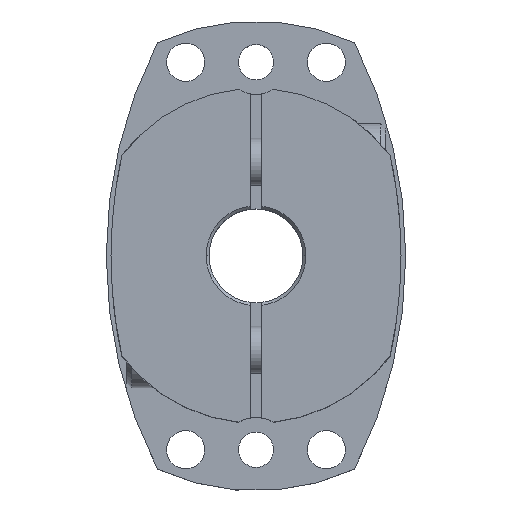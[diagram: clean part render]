
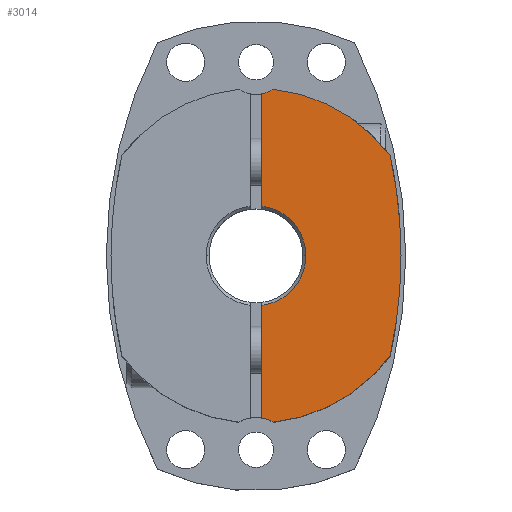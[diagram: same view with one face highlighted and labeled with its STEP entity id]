
A CAD part, top view. The second image highlights one B-rep face of the part: STEP entity #3014.
In plain terms, the highlighted planar face has unit normal (0, 0, 1).
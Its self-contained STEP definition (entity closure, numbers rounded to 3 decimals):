
#373=CARTESIAN_POINT('',(8.5,0.,25.5));
#374=VERTEX_POINT('',#373);
#381=CARTESIAN_POINT('',(1.,8.441,25.5));
#382=VERTEX_POINT('',#381);
#383=CARTESIAN_POINT('',(0.,0.,25.5));
#384=DIRECTION('',(0.0,0.0,1.0));
#385=DIRECTION('',(-1.0,0.0,0.0));
#386=AXIS2_PLACEMENT_3D('',#383,#384,#385);
#387=CIRCLE('',#386,8.5);
#388=EDGE_CURVE('',#374,#382,#387,.T.);
#537=CARTESIAN_POINT('',(24.7,0.,25.5));
#538=VERTEX_POINT('',#537);
#658=CARTESIAN_POINT('',(22.845,17.039,25.5));
#659=VERTEX_POINT('',#658);
#666=CARTESIAN_POINT('',(-54.5,0.,25.5));
#667=DIRECTION('',(0.0,0.0,-1.0));
#668=DIRECTION('',(1.0,0.0,0.0));
#669=AXIS2_PLACEMENT_3D('',#666,#667,#668);
#670=CIRCLE('',#669,79.2);
#671=EDGE_CURVE('',#659,#538,#670,.T.);
#2331=CARTESIAN_POINT('',(2.935,28.348,25.5));
#2332=VERTEX_POINT('',#2331);
#2339=CARTESIAN_POINT('',(0.,0.,25.5));
#2340=DIRECTION('',(0.0,0.0,-1.0));
#2341=DIRECTION('',(1.0,0.0,0.0));
#2342=AXIS2_PLACEMENT_3D('',#2339,#2340,#2341);
#2343=CIRCLE('',#2342,28.5);
#2344=EDGE_CURVE('',#2332,#659,#2343,.T.);
#2555=CARTESIAN_POINT('',(22.845,-17.039,25.5));
#2556=VERTEX_POINT('',#2555);
#2557=CARTESIAN_POINT('',(-54.5,0.,25.5));
#2558=DIRECTION('',(0.0,0.0,-1.0));
#2559=DIRECTION('',(1.0,0.0,0.0));
#2560=AXIS2_PLACEMENT_3D('',#2557,#2558,#2559);
#2561=CIRCLE('',#2560,79.2);
#2562=EDGE_CURVE('',#538,#2556,#2561,.T.);
#2679=CARTESIAN_POINT('',(1.,-27.592,25.5));
#2680=VERTEX_POINT('',#2679);
#2696=CARTESIAN_POINT('',(2.935,-28.348,25.5));
#2697=VERTEX_POINT('',#2696);
#2704=CARTESIAN_POINT('',(0.,-33.,25.5));
#2705=DIRECTION('',(0.0,0.0,-1.0));
#2706=DIRECTION('',(1.0,0.0,0.0));
#2707=AXIS2_PLACEMENT_3D('',#2704,#2705,#2706);
#2708=CIRCLE('',#2707,5.5);
#2709=EDGE_CURVE('',#2680,#2697,#2708,.T.);
#2888=CARTESIAN_POINT('',(1.,27.592,25.5));
#2889=VERTEX_POINT('',#2888);
#2896=CARTESIAN_POINT('',(0.,33.,25.5));
#2897=DIRECTION('',(0.0,0.0,-1.0));
#2898=DIRECTION('',(1.0,0.0,0.0));
#2899=AXIS2_PLACEMENT_3D('',#2896,#2897,#2898);
#2900=CIRCLE('',#2899,5.5);
#2901=EDGE_CURVE('',#2332,#2889,#2900,.T.);
#2936=CARTESIAN_POINT('',(1.,-8.441,25.5));
#2937=VERTEX_POINT('',#2936);
#2938=CARTESIAN_POINT('',(1.,-8.441,25.5));
#2939=DIRECTION('',(0.0,-1.0,0.0));
#2940=VECTOR('',#2939,19.151);
#2941=LINE('',#2938,#2940);
#2942=EDGE_CURVE('',#2937,#2680,#2941,.T.);
#2980=CARTESIAN_POINT('',(0.,0.,25.5));
#2981=DIRECTION('',(0.0,0.0,1.0));
#2982=DIRECTION('',(1.0,0.0,0.0));
#2983=AXIS2_PLACEMENT_3D('',#2980,#2981,#2982);
#2984=PLANE('',#2983);
#2985=ORIENTED_EDGE('',*,*,#2709,.T.);
#2986=CARTESIAN_POINT('',(0.,0.,25.5));
#2987=DIRECTION('',(0.0,0.0,-1.0));
#2988=DIRECTION('',(1.0,0.0,0.0));
#2989=AXIS2_PLACEMENT_3D('',#2986,#2987,#2988);
#2990=CIRCLE('',#2989,28.5);
#2991=EDGE_CURVE('',#2556,#2697,#2990,.T.);
#2992=ORIENTED_EDGE('',*,*,#2991,.F.);
#2993=ORIENTED_EDGE('',*,*,#2562,.F.);
#2994=ORIENTED_EDGE('',*,*,#671,.F.);
#2995=ORIENTED_EDGE('',*,*,#2344,.F.);
#2996=ORIENTED_EDGE('',*,*,#2901,.T.);
#2997=CARTESIAN_POINT('',(1.,27.592,25.5));
#2998=DIRECTION('',(0.0,-1.0,0.0));
#2999=VECTOR('',#2998,19.151);
#3000=LINE('',#2997,#2999);
#3001=EDGE_CURVE('',#2889,#382,#3000,.T.);
#3002=ORIENTED_EDGE('',*,*,#3001,.T.);
#3003=ORIENTED_EDGE('',*,*,#388,.F.);
#3004=CARTESIAN_POINT('',(0.,0.,25.5));
#3005=DIRECTION('',(0.0,0.0,1.0));
#3006=DIRECTION('',(-1.0,0.0,0.0));
#3007=AXIS2_PLACEMENT_3D('',#3004,#3005,#3006);
#3008=CIRCLE('',#3007,8.5);
#3009=EDGE_CURVE('',#2937,#374,#3008,.T.);
#3010=ORIENTED_EDGE('',*,*,#3009,.F.);
#3011=ORIENTED_EDGE('',*,*,#2942,.T.);
#3012=EDGE_LOOP('',(#2985,#2992,#2993,#2994,#2995,#2996,#3002,#3003,#3010,#3011));
#3013=FACE_OUTER_BOUND('',#3012,.T.);
#3014=ADVANCED_FACE('',(#3013),#2984,.T.);
